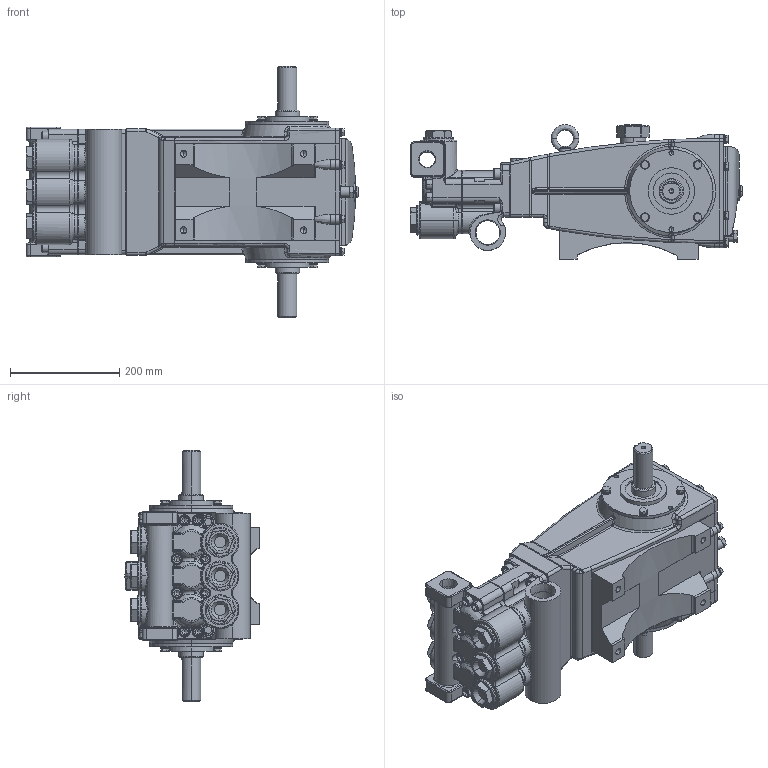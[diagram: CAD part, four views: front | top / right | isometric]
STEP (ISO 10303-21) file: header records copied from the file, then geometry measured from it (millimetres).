
FILE_DESCRIPTION (( 'STEP AP214' ), '1' );
FILE_NAME ('3545.STEP', '2017-09-28T09:21:27', ( '' ), ( '' ), 'SwSTEP 2.0', 'SolidWorks 2017', '' );
FILE_SCHEMA (( 'AUTOMOTIVE_DESIGN' ));
Length unit declared in the file: millimetre
Products named in the file (1): 3545
Bounding box: 608.04 x 247 x 459.99 mm (x, y, z)
Volume: 20608148.9 mm3; surface area: 1185429.6 mm2
Topology: 24 solids, 28 shells, 2189 faces, 5270 edges, 3163 vertices
Faces by surface type: plane 891, cylinder 660, bspline 488, cone 150
Entity records: 112267 total; most frequent: CARTESIAN_POINT 40167, ORIENTED_EDGE 10336, DIRECTION 9526, EDGE_CURVE 5168, AXIS2_PLACEMENT_3D 3626, VERTEX_POINT 3163, EDGE_LOOP 2353, LINE 2274
